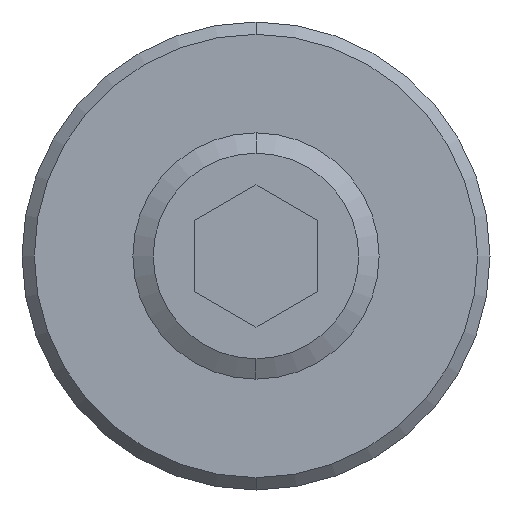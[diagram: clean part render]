
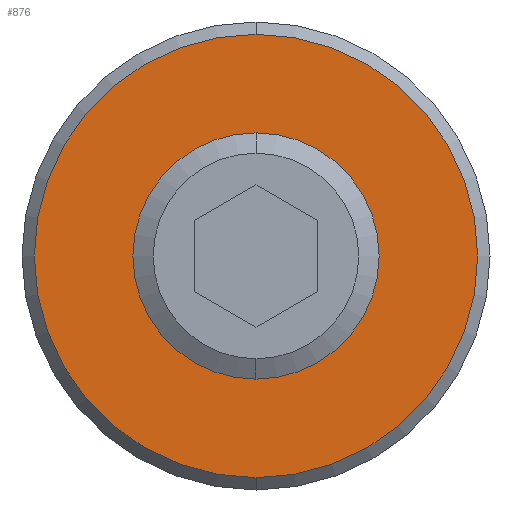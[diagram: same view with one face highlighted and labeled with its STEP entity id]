
A CAD part, front view. The second image highlights one B-rep face of the part: STEP entity #876.
In plain terms, the highlighted planar face has unit normal (0, -1, 0).
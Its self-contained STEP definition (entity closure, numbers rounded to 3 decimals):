
#14 = DIRECTION ( 'NONE',  ( 0., 0., 1. ) ) ;
#19 = AXIS2_PLACEMENT_3D ( 'NONE', #168, #695, #14 ) ;
#31 = CIRCLE ( 'NONE', #166, 9. ) ;
#44 = DIRECTION ( 'NONE',  ( 0., -1., 0. ) ) ;
#49 = EDGE_CURVE ( 'NONE', #687, #194, #31, .T. ) ;
#54 = EDGE_LOOP ( 'NONE', ( #394, #114 ) ) ;
#82 = EDGE_LOOP ( 'NONE', ( #474, #115 ) ) ;
#99 = CIRCLE ( 'NONE', #345, 4.45 ) ;
#114 = ORIENTED_EDGE ( 'NONE', *, *, #591, .F. ) ;
#115 = ORIENTED_EDGE ( 'NONE', *, *, #185, .F. ) ;
#160 = DIRECTION ( 'NONE',  ( 0., 1., 0. ) ) ;
#166 = AXIS2_PLACEMENT_3D ( 'NONE', #422, #160, #465 ) ;
#168 = CARTESIAN_POINT ( 'NONE',  ( 0., 0., 0. ) ) ;
#181 = FACE_BOUND ( 'NONE', #82, .T. ) ;
#185 = EDGE_CURVE ( 'NONE', #499, #583, #287, .T. ) ;
#194 = VERTEX_POINT ( 'NONE', #682 ) ;
#216 = DIRECTION ( 'NONE',  ( 0., -1., 0. ) ) ;
#261 = EDGE_CURVE ( 'NONE', #583, #499, #99, .T. ) ;
#269 = AXIS2_PLACEMENT_3D ( 'NONE', #673, #702, #768 ) ;
#287 = CIRCLE ( 'NONE', #663, 4.45 ) ;
#319 = DIRECTION ( 'NONE',  ( 0., 0., -1. ) ) ;
#323 = CIRCLE ( 'NONE', #19, 9. ) ;
#333 = CARTESIAN_POINT ( 'NONE',  ( 0., 0., 4.45 ) ) ;
#345 = AXIS2_PLACEMENT_3D ( 'NONE', #934, #216, #970 ) ;
#348 = CARTESIAN_POINT ( 'NONE',  ( 0., 0., -4.45 ) ) ;
#352 = CARTESIAN_POINT ( 'NONE',  ( 0., 0., 9. ) ) ;
#394 = ORIENTED_EDGE ( 'NONE', *, *, #49, .F. ) ;
#422 = CARTESIAN_POINT ( 'NONE',  ( 0., 0., 0. ) ) ;
#465 = DIRECTION ( 'NONE',  ( 0., 0., 1. ) ) ;
#474 = ORIENTED_EDGE ( 'NONE', *, *, #261, .F. ) ;
#499 = VERTEX_POINT ( 'NONE', #333 ) ;
#532 = PLANE ( 'NONE',  #269 ) ;
#583 = VERTEX_POINT ( 'NONE', #348 ) ;
#591 = EDGE_CURVE ( 'NONE', #194, #687, #323, .T. ) ;
#663 = AXIS2_PLACEMENT_3D ( 'NONE', #671, #44, #319 ) ;
#671 = CARTESIAN_POINT ( 'NONE',  ( 0., 0., 0. ) ) ;
#673 = CARTESIAN_POINT ( 'NONE',  ( 0., 0., 0. ) ) ;
#682 = CARTESIAN_POINT ( 'NONE',  ( 0., 0., -9. ) ) ;
#687 = VERTEX_POINT ( 'NONE', #352 ) ;
#695 = DIRECTION ( 'NONE',  ( 0., 1., 0. ) ) ;
#702 = DIRECTION ( 'NONE',  ( 0., 1., 0. ) ) ;
#768 = DIRECTION ( 'NONE',  ( 0., 0., 1. ) ) ;
#859 = FACE_OUTER_BOUND ( 'NONE', #54, .T. ) ;
#876 = ADVANCED_FACE ( 'NONE', ( #859, #181 ), #532, .F. ) ;
#934 = CARTESIAN_POINT ( 'NONE',  ( 0., 0., 0. ) ) ;
#970 = DIRECTION ( 'NONE',  ( 0., 0., -1. ) ) ;
